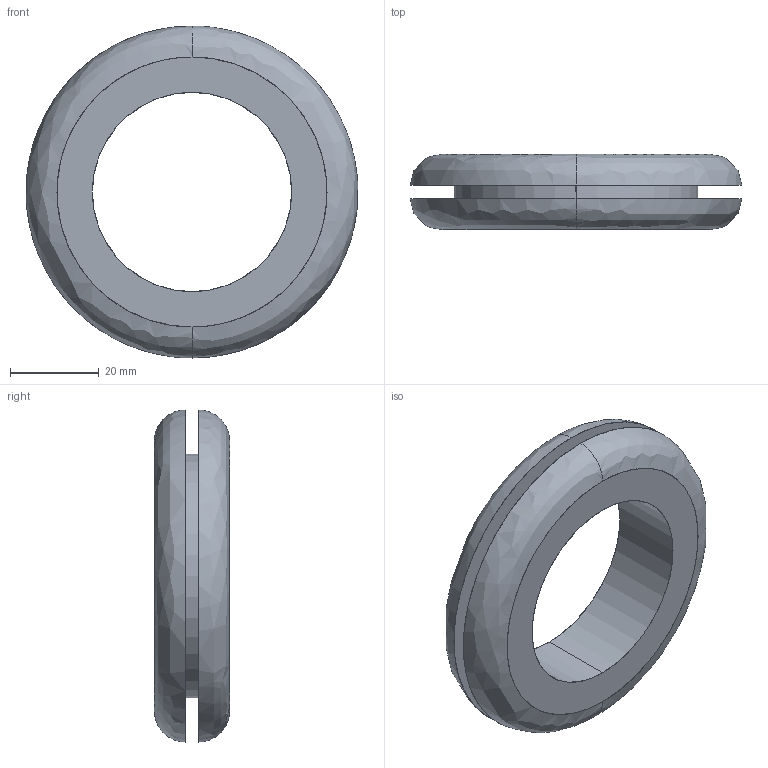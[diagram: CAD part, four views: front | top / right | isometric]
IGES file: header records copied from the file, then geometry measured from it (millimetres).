
Start section: SolidWorks IGES FILE using analytic representation for surfaces
Global section: file name: \\Ls-wvld1d\share\シブタニ\3D設計\ゴム\B-45-3\B-45-3.IGS; native system: SolidWorks 2003 by SolidWorks Corporation; preprocessor: Version 5.3; author: user; date: 130714.170453; units: millimetre
Bounding box: 75 x 17 x 75 mm (x, y, z)
Surface area: 14499.9 mm2 (no closed solid volume)
Topology: 0 solids, 0 shells, 12 faces, 544 edges, 544 vertices
Faces by surface type: bspline 8, revolution 4
